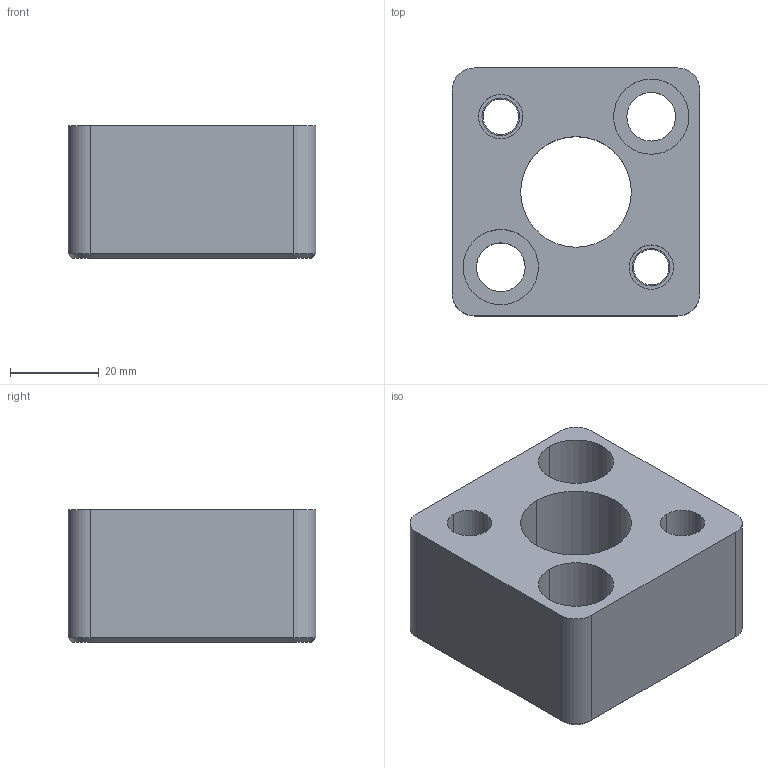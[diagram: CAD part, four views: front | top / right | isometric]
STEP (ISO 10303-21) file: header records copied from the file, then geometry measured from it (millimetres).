
FILE_DESCRIPTION(/* description */ (''),/* implementation_level */ '2;1');
FILE_NAME(/* name */ '3d_hsr-an25_04195_r00.stp',/* time_stamp */ '2011-01-10T14:14:35+09:00',/* author */ ('MISUMI'),/* organization */ (''),/* preprocessor_version */ 'ST-DEVELOPER v11',/* originating_system */ 'UGS - NX 5.0',/* authorisation */ '');
FILE_SCHEMA (('CONFIG_CONTROL_DESIGN'));
Length unit declared in the file: millimetre
Products named in the file (1): 3d_hsr-an25_04195_r00
Bounding box: 56 x 56 x 30 mm (x, y, z)
Volume: 65060.4 mm3; surface area: 17627.6 mm2
Topology: 1 solids, 1 shells, 51 faces, 116 edges, 74 vertices
Faces by surface type: cylinder 28, plane 17, cone 6
Entity records: 1562 total; most frequent: DIRECTION 278, CARTESIAN_POINT 254, ORIENTED_EDGE 232, EDGE_CURVE 116, AXIS2_PLACEMENT_3D 114, VERTEX_POINT 74, EDGE_LOOP 68, CIRCLE 62
